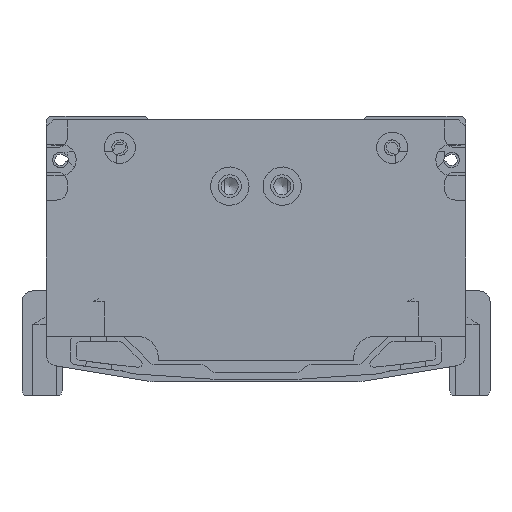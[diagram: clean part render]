
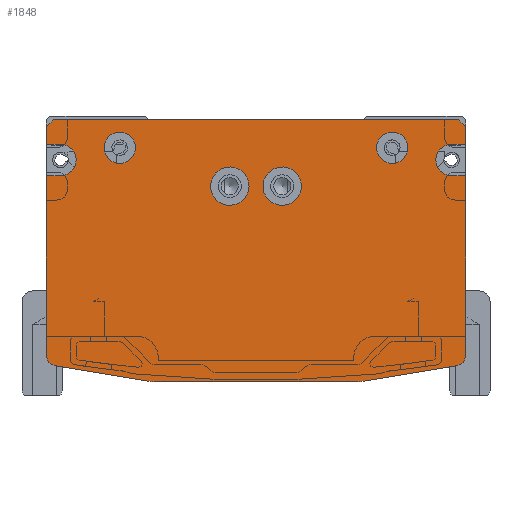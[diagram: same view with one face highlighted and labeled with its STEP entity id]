
A CAD part, front view. The second image highlights one B-rep face of the part: STEP entity #1848.
In plain terms, the highlighted planar face has unit normal (0, -1, 0).
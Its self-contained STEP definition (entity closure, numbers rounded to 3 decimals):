
#658=PLANE('',#18329);
#1848=ADVANCED_FACE('',(#5476,#5477,#5478,#5479,#5480),#658,.F.);
#3205=LINE('',#27094,#4359);
#3209=LINE('',#27102,#4363);
#3339=LINE('',#28010,#4493);
#3364=LINE('',#28058,#4518);
#3368=LINE('',#28066,#4522);
#3542=LINE('',#29213,#4696);
#3544=LINE('',#29216,#4698);
#3548=LINE('',#29223,#4702);
#3551=LINE('',#29232,#4705);
#3564=LINE('',#29267,#4718);
#3569=LINE('',#29281,#4723);
#3573=LINE('',#29293,#4727);
#3595=LINE('',#29355,#4749);
#3598=LINE('',#29364,#4752);
#4359=VECTOR('',#20914,1.);
#4363=VECTOR('',#20918,1.);
#4493=VECTOR('',#21354,1.);
#4518=VECTOR('',#21393,1.);
#4522=VECTOR('',#21397,1.);
#4696=VECTOR('',#22157,1.);
#4698=VECTOR('',#22161,1.);
#4702=VECTOR('',#22167,1.);
#4705=VECTOR('',#22178,1.);
#4718=VECTOR('',#22211,1.);
#4723=VECTOR('',#22224,1.);
#4727=VECTOR('',#22236,1.);
#4749=VECTOR('',#22312,1.);
#4752=VECTOR('',#22323,1.);
#5476=FACE_BOUND('',#6810,.T.);
#5477=FACE_BOUND('',#6811,.T.);
#5478=FACE_BOUND('',#6812,.T.);
#5479=FACE_BOUND('',#6813,.T.);
#5480=FACE_BOUND('',#6814,.T.);
#6810=EDGE_LOOP('',(#10343));
#6811=EDGE_LOOP('',(#10344));
#6812=EDGE_LOOP('',(#10345,#10346,#10347,#10348,#10349,#10350,#10351,#10352,
#10353,#10354,#10355,#10356,#10357,#10358,#10359,#10360,#10361,#10362,#10363,
#10364));
#6813=EDGE_LOOP('',(#10365));
#6814=EDGE_LOOP('',(#10366));
#10343=ORIENTED_EDGE('',*,*,#15480,.T.);
#10344=ORIENTED_EDGE('',*,*,#15484,.T.);
#10345=ORIENTED_EDGE('',*,*,#15545,.T.);
#10346=ORIENTED_EDGE('',*,*,#15541,.F.);
#10347=ORIENTED_EDGE('',*,*,#15539,.F.);
#10348=ORIENTED_EDGE('',*,*,#15536,.F.);
#10349=ORIENTED_EDGE('',*,*,#15532,.T.);
#10350=ORIENTED_EDGE('',*,*,#15529,.T.);
#10351=ORIENTED_EDGE('',*,*,#15186,.F.);
#10352=ORIENTED_EDGE('',*,*,#15515,.T.);
#10353=ORIENTED_EDGE('',*,*,#15512,.T.);
#10354=ORIENTED_EDGE('',*,*,#15510,.F.);
#10355=ORIENTED_EDGE('',*,*,#15182,.F.);
#10356=ORIENTED_EDGE('',*,*,#15506,.T.);
#10357=ORIENTED_EDGE('',*,*,#15157,.F.);
#10358=ORIENTED_EDGE('',*,*,#15504,.T.);
#10359=ORIENTED_EDGE('',*,*,#14898,.F.);
#10360=ORIENTED_EDGE('',*,*,#15580,.T.);
#10361=ORIENTED_EDGE('',*,*,#15577,.T.);
#10362=ORIENTED_EDGE('',*,*,#15575,.F.);
#10363=ORIENTED_EDGE('',*,*,#14894,.F.);
#10364=ORIENTED_EDGE('',*,*,#15548,.T.);
#10365=ORIENTED_EDGE('',*,*,#15491,.F.);
#10366=ORIENTED_EDGE('',*,*,#15487,.F.);
#12983=VERTEX_POINT('',#27093);
#12984=VERTEX_POINT('',#27095);
#12987=VERTEX_POINT('',#27101);
#12988=VERTEX_POINT('',#27103);
#13114=VERTEX_POINT('',#28009);
#13115=VERTEX_POINT('',#28011);
#13130=VERTEX_POINT('',#28057);
#13131=VERTEX_POINT('',#28059);
#13134=VERTEX_POINT('',#28065);
#13135=VERTEX_POINT('',#28067);
#13334=VERTEX_POINT('',#29156);
#13338=VERTEX_POINT('',#29167);
#13341=VERTEX_POINT('',#29176);
#13344=VERTEX_POINT('',#29186);
#13352=VERTEX_POINT('',#29221);
#13354=VERTEX_POINT('',#29228);
#13365=VERTEX_POINT('',#29262);
#13367=VERTEX_POINT('',#29268);
#13370=VERTEX_POINT('',#29276);
#13372=VERTEX_POINT('',#29282);
#13373=VERTEX_POINT('',#29286);
#13376=VERTEX_POINT('',#29294);
#13388=VERTEX_POINT('',#29353);
#13390=VERTEX_POINT('',#29360);
#14894=EDGE_CURVE('',#12983,#12984,#3205,.T.);
#14898=EDGE_CURVE('',#12987,#12988,#3209,.T.);
#15157=EDGE_CURVE('',#13114,#13115,#3339,.T.);
#15182=EDGE_CURVE('',#13130,#13131,#3364,.T.);
#15186=EDGE_CURVE('',#13134,#13135,#3368,.T.);
#15480=EDGE_CURVE('',#13334,#13334,#16779,.T.);
#15484=EDGE_CURVE('',#13338,#13338,#16783,.T.);
#15487=EDGE_CURVE('',#13341,#13341,#16786,.T.);
#15491=EDGE_CURVE('',#13344,#13344,#16790,.T.);
#15504=EDGE_CURVE('',#13114,#12988,#3542,.T.);
#15506=EDGE_CURVE('',#13130,#13115,#3544,.T.);
#15510=EDGE_CURVE('',#13131,#13352,#3548,.T.);
#15512=EDGE_CURVE('',#13354,#13352,#16797,.T.);
#15515=EDGE_CURVE('',#13134,#13354,#3551,.T.);
#15529=EDGE_CURVE('',#13365,#13135,#16800,.T.);
#15532=EDGE_CURVE('',#13367,#13365,#3564,.T.);
#15536=EDGE_CURVE('',#13367,#13370,#16803,.T.);
#15539=EDGE_CURVE('',#13370,#13372,#3569,.T.);
#15541=EDGE_CURVE('',#13372,#13373,#16804,.T.);
#15545=EDGE_CURVE('',#13376,#13373,#3573,.T.);
#15548=EDGE_CURVE('',#12983,#13376,#16807,.T.);
#15575=EDGE_CURVE('',#12984,#13388,#3595,.T.);
#15577=EDGE_CURVE('',#13390,#13388,#16815,.T.);
#15580=EDGE_CURVE('',#12987,#13390,#3598,.T.);
#16779=CIRCLE('',#18230,5.5);
#16783=CIRCLE('',#18237,5.5);
#16786=CIRCLE('',#18243,4.5);
#16790=CIRCLE('',#18250,4.5);
#16797=CIRCLE('',#18268,4.5);
#16800=CIRCLE('',#18277,3.);
#16803=CIRCLE('',#18282,10.);
#16804=CIRCLE('',#18285,10.);
#16807=CIRCLE('',#18290,3.);
#16815=CIRCLE('',#18317,4.5);
#18230=AXIS2_PLACEMENT_3D('',#29155,#22082,#22083);
#18237=AXIS2_PLACEMENT_3D('',#29166,#22096,#22097);
#18243=AXIS2_PLACEMENT_3D('',#29175,#22108,#22109);
#18250=AXIS2_PLACEMENT_3D('',#29185,#22122,#22123);
#18268=AXIS2_PLACEMENT_3D('',#29227,#22172,#22173);
#18277=AXIS2_PLACEMENT_3D('',#29261,#22204,#22205);
#18282=AXIS2_PLACEMENT_3D('',#29275,#22218,#22219);
#18285=AXIS2_PLACEMENT_3D('',#29285,#22228,#22229);
#18290=AXIS2_PLACEMENT_3D('',#29298,#22242,#22243);
#18317=AXIS2_PLACEMENT_3D('',#29359,#22317,#22318);
#18329=AXIS2_PLACEMENT_3D('',#29381,#22348,#22349);
#20914=DIRECTION('',(0.,0.,1.));
#20918=DIRECTION('',(0.,0.,1.));
#21354=DIRECTION('',(1.,0.,0.));
#21393=DIRECTION('',(0.,0.,-1.));
#21397=DIRECTION('',(0.,0.,-1.));
#22082=DIRECTION('',(0.,1.,0.));
#22083=DIRECTION('',(1.,0.,0.));
#22096=DIRECTION('',(0.,1.,0.));
#22097=DIRECTION('',(1.,0.,0.));
#22108=DIRECTION('',(0.,-1.,0.));
#22109=DIRECTION('',(1.,0.,0.));
#22122=DIRECTION('',(0.,-1.,0.));
#22123=DIRECTION('',(1.,0.,0.));
#22157=DIRECTION('',(-0.707,0.,-0.707));
#22161=DIRECTION('',(-0.707,0.,0.707));
#22167=DIRECTION('',(-1.,0.,0.));
#22172=DIRECTION('',(0.,1.,0.));
#22173=DIRECTION('',(0.,0.,-1.));
#22178=DIRECTION('',(-1.,0.,0.));
#22204=DIRECTION('',(0.,-1.,0.));
#22205=DIRECTION('',(0.164,0.,-0.986));
#22211=DIRECTION('',(0.986,0.,0.164));
#22218=DIRECTION('',(0.,1.,0.));
#22219=DIRECTION('',(0.164,0.,-0.986));
#22224=DIRECTION('',(-1.,0.,0.));
#22228=DIRECTION('',(0.,1.,0.));
#22229=DIRECTION('',(0.,0.,-1.));
#22236=DIRECTION('',(0.986,0.,-0.164));
#22242=DIRECTION('',(0.,-1.,0.));
#22243=DIRECTION('',(-1.,0.,0.));
#22312=DIRECTION('',(1.,0.,0.));
#22317=DIRECTION('',(0.,1.,0.));
#22318=DIRECTION('',(0.,0.,1.));
#22323=DIRECTION('',(1.,0.,0.));
#22348=DIRECTION('',(0.,1.,0.));
#22349=DIRECTION('',(-1.,0.,0.));
#27093=CARTESIAN_POINT('',(-60.,-2412.,-69.459));
#27094=CARTESIAN_POINT('',(-60.,-2412.,-69.459));
#27095=CARTESIAN_POINT('',(-60.,-2412.,-18.));
#27101=CARTESIAN_POINT('',(-60.,-2412.,-9.));
#27102=CARTESIAN_POINT('',(-60.,-2412.,-9.));
#27103=CARTESIAN_POINT('',(-60.,-2412.,-4.));
#28009=CARTESIAN_POINT('',(-58.,-2412.,-2.));
#28010=CARTESIAN_POINT('',(-58.,-2412.,-2.));
#28011=CARTESIAN_POINT('',(58.,-2412.,-2.));
#28057=CARTESIAN_POINT('',(60.,-2412.,-4.));
#28058=CARTESIAN_POINT('',(60.,-2412.,-4.));
#28059=CARTESIAN_POINT('',(60.,-2412.,-9.));
#28065=CARTESIAN_POINT('',(60.,-2412.,-18.));
#28066=CARTESIAN_POINT('',(60.,-2412.,-18.));
#28067=CARTESIAN_POINT('',(60.,-2412.,-69.459));
#29155=CARTESIAN_POINT('',(7.5,-2412.,-21.));
#29156=CARTESIAN_POINT('',(13.,-2412.,-21.));
#29166=CARTESIAN_POINT('',(-7.5,-2412.,-21.));
#29167=CARTESIAN_POINT('',(-2.,-2412.,-21.));
#29175=CARTESIAN_POINT('',(-39.,-2412.,-10.));
#29176=CARTESIAN_POINT('',(-34.5,-2412.,-10.));
#29185=CARTESIAN_POINT('',(39.,-2412.,-10.));
#29186=CARTESIAN_POINT('',(43.5,-2412.,-10.));
#29213=CARTESIAN_POINT('',(-58.,-2412.,-2.));
#29216=CARTESIAN_POINT('',(60.,-2412.,-4.));
#29221=CARTESIAN_POINT('',(56.,-2412.,-9.));
#29223=CARTESIAN_POINT('',(60.,-2412.,-9.));
#29227=CARTESIAN_POINT('',(56.,-2412.,-13.5));
#29228=CARTESIAN_POINT('',(56.,-2412.,-18.));
#29232=CARTESIAN_POINT('',(60.,-2412.,-18.));
#29261=CARTESIAN_POINT('',(57.,-2412.,-69.459));
#29262=CARTESIAN_POINT('',(57.493,-2412.,-72.418));
#29267=CARTESIAN_POINT('',(30.816,-2412.,-76.864));
#29268=CARTESIAN_POINT('',(30.816,-2412.,-76.864));
#29275=CARTESIAN_POINT('',(29.172,-2412.,-67.));
#29276=CARTESIAN_POINT('',(29.172,-2412.,-77.));
#29281=CARTESIAN_POINT('',(29.172,-2412.,-77.));
#29282=CARTESIAN_POINT('',(-29.172,-2412.,-77.));
#29285=CARTESIAN_POINT('',(-29.172,-2412.,-67.));
#29286=CARTESIAN_POINT('',(-30.816,-2412.,-76.864));
#29293=CARTESIAN_POINT('',(-57.493,-2412.,-72.418));
#29294=CARTESIAN_POINT('',(-57.493,-2412.,-72.418));
#29298=CARTESIAN_POINT('',(-57.,-2412.,-69.459));
#29353=CARTESIAN_POINT('',(-56.,-2412.,-18.));
#29355=CARTESIAN_POINT('',(-60.,-2412.,-18.));
#29359=CARTESIAN_POINT('',(-56.,-2412.,-13.5));
#29360=CARTESIAN_POINT('',(-56.,-2412.,-9.));
#29364=CARTESIAN_POINT('',(-60.,-2412.,-9.));
#29381=CARTESIAN_POINT('',(0.,-2412.,-2.));
